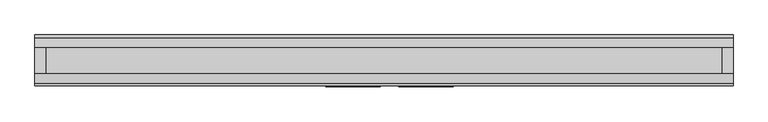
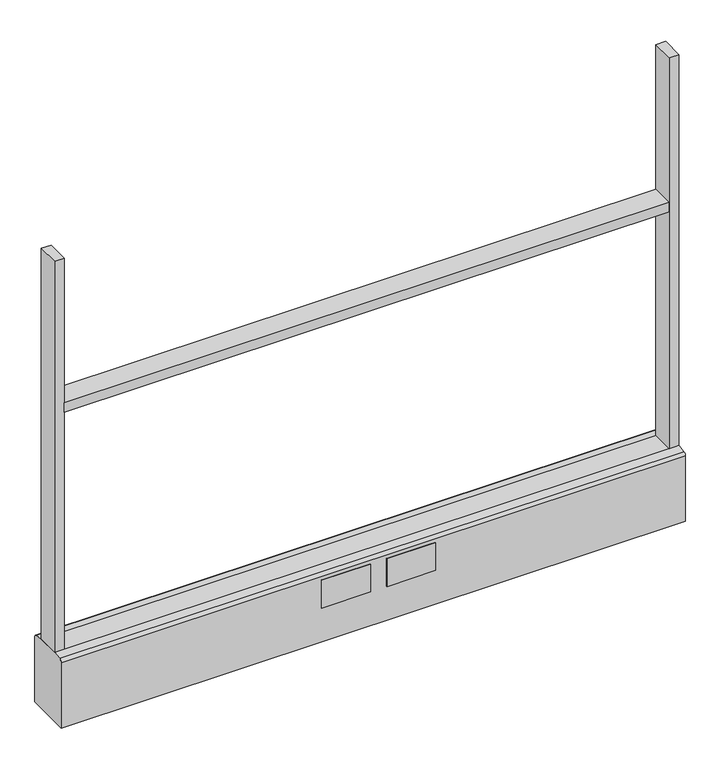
"""IFC4 building model written with IfcOpenShell, lengths in millimetres: furniture geometry."""

from ifc_helpers import new_model, si_unit, point, frame, frame_2d, origin, origin_with_axes, place, context, project, spatial, polyline, circle_curve, trimmed, segment, composite_curve, outline, extrude, source, transform, mapped, element, save


def furniture_85814acf(model_context):
    return source(origin(), model_context, "Body", "SweptSolid", [
        extrude(outline(composite_curve([segment(trimmed(circle_curve(frame_2d((-533.4, 0.0)), 5.55625), [point((-527.84375, 0.0))], [point((-538.95625, 0.0))], False, "CARTESIAN"), True, "CONTINUOUS"), segment(trimmed(circle_curve(frame_2d((-533.4, 0.0)), 5.55625), [point((-538.95625, 0.0))], [point((-527.84375, 0.0))], False, "CARTESIAN"), True, "CONTINUOUS")], self_intersect=False)), frame((0.0, 0.0, 6.3499992), z_axis=(0.0, 0.0, 1.0), x_axis=(1.0, 0.0, 0.0)), (0.0, 0.0, 1.0), 3.1750008),
        extrude(outline(composite_curve([segment(trimmed(circle_curve(frame_2d((533.4, 0.0)), 5.55625), [point((538.95625, 0.0))], [point((527.84375, 0.0))], False, "CARTESIAN"), True, "CONTINUOUS"), segment(trimmed(circle_curve(frame_2d((533.4, 0.0)), 5.55625), [point((527.84375, 0.0))], [point((538.95625, 0.0))], False, "CARTESIAN"), True, "CONTINUOUS")], self_intersect=False)), frame((0.0, 0.0, 6.3499992), z_axis=(0.0, 0.0, 1.0), x_axis=(1.0, 0.0, 0.0)), (0.0, 0.0, 1.0), 3.1750008),
        extrude(outline(composite_curve([segment(trimmed(circle_curve(frame_2d((-533.4, 0.0)), 23.415625), [point((-509.984375, 0.0))], [point((-556.815625, 0.0))], False, "CARTESIAN"), True, "CONTINUOUS"), segment(trimmed(circle_curve(frame_2d((-533.4, 0.0)), 23.415625), [point((-556.815625, 0.0))], [point((-509.984375, 0.0))], False, "CARTESIAN"), True, "CONTINUOUS")], self_intersect=False)), origin_with_axes(), (0.0, 0.0, 1.0), 6.3499992),
        extrude(outline(composite_curve([segment(trimmed(circle_curve(frame_2d((533.4, 0.0)), 23.415625), [point((556.815625, 0.0))], [point((509.984375, 0.0))], False, "CARTESIAN"), True, "CONTINUOUS"), segment(trimmed(circle_curve(frame_2d((533.4, 0.0)), 23.415625), [point((509.984375, 0.0))], [point((556.815625, 0.0))], False, "CARTESIAN"), True, "CONTINUOUS")], self_intersect=False)), origin_with_axes(), (0.0, 0.0, 1.0), 6.3499992),
        extrude(outline(polyline([(590.6515926, -22.225), (-590.6515926, -22.225), (-590.6515926, 22.225), (590.6515926, 22.225), (590.6515926, -22.225)])), frame((0.0, 0.0, 641.35), z_axis=(0.0, 0.0, 1.0), x_axis=(1.0, 0.0, 0.0)), (0.0, 0.0, 1.0), 19.05),
        extrude(outline(polyline([(609.6, 22.225), (609.6, -22.225), (590.6515926, -22.225), (590.6515926, 22.225), (609.6, 22.225)])), frame((0.0, 0.0, 152.4), z_axis=(0.0, 0.0, 1.0), x_axis=(1.0, 0.0, 0.0)), (0.0, 0.0, 1.0), 806.4499516),
        extrude(outline(polyline([(-590.6515926, 22.225), (-590.6515926, -22.225), (-609.6, -22.225), (-609.6, 22.225), (-590.6515926, 22.225)])), frame((0.0, 0.0, 152.4), z_axis=(0.0, 0.0, 1.0), x_axis=(1.0, 0.0, 0.0)), (0.0, 0.0, 1.0), 806.4499516),
        extrude(outline(composite_curve([segment(polyline([(22.2316857, 152.4), (39.4289836, 149.9432432)]), True, "CONTINUOUS"), segment(trimmed(circle_curve(frame_2d((38.605672, 144.1572033)), 5.844322), [point((39.4289836, 149.9432432))], [point((44.4499939, 144.1572033))], False, "CARTESIAN"), True, "CONTINUOUS"), segment(polyline([(44.4499939, 144.1572033), (44.4499939, 9.525), (-44.4499939, 9.525), (-44.4499939, 144.1572033)]), True, "CONTINUOUS"), segment(trimmed(circle_curve(frame_2d((-38.605672, 144.1572033)), 5.844322), [point((-44.4499939, 144.1572033))], [point((-39.4289836, 149.9432432))], False, "CARTESIAN"), True, "CONTINUOUS"), segment(polyline([(-39.4289836, 149.9432432), (-22.2316857, 152.4), (22.2316857, 152.4)]), True, "CONTINUOUS")], self_intersect=False)), frame((-609.6, 0.0, 0.0), z_axis=(1.0, 0.0, 0.0), x_axis=(0.0, 1.0, 0.0)), (0.0, 0.0, 1.0), 1219.2),
        extrude(outline(polyline([(120.65, -46.0374939), (25.4, -46.0374939), (25.4, -44.4499939), (120.65, -44.4499939), (120.65, -46.0374939)])), frame((0.0, 0.0, 80.01), z_axis=(0.0, 0.0, 1.0), x_axis=(1.0, 0.0, 0.0)), (0.0, 0.0, 1.0), 57.15),
        extrude(outline(polyline([(-6.35, -46.0374939), (-101.6, -46.0374939), (-101.6, -44.4499939), (-6.35, -44.4499939), (-6.35, -46.0374939)])), frame((0.0, 0.0, 80.01), z_axis=(0.0, 0.0, 1.0), x_axis=(1.0, 0.0, 0.0)), (0.0, 0.0, 1.0), 57.15),
        extrude(outline(polyline([(120.65, -46.0374939), (25.4, -46.0374939), (25.4, -44.4499939), (120.65, -44.4499939), (120.65, -46.0374939)])), frame((0.0, 0.0, 80.01), z_axis=(0.0, 0.0, 1.0), x_axis=(1.0, 0.0, 0.0)), (0.0, 0.0, 1.0), 57.15),
        extrude(outline(polyline([(-6.35, -46.0374939), (-101.6, -46.0374939), (-101.6, -44.4499939), (-6.35, -44.4499939), (-6.35, -46.0374939)])), frame((0.0, 0.0, 80.01), z_axis=(0.0, 0.0, 1.0), x_axis=(1.0, 0.0, 0.0)), (0.0, 0.0, 1.0), 57.15),
    ])


if __name__ == "__main__":
    model = new_model("IFC4")
    model_context = context("Model", 3, world=origin())
    ifc_project = project(units=[si_unit("LENGTHUNIT", "METRE", prefix="MILLI")], contexts=[model_context])
    site = spatial("IfcSite", under=ifc_project)
    building = spatial("IfcBuilding", under=site)
    placement = place(None, origin())
    furniture_shape = furniture_85814acf(model_context)
    element("IfcFurniture", 1, ObjectType="HermanMiller_Ethospace_E1116_FrameTransactionWorkSurface : 38\"H x 48\"W-H", at=placement, inside=building, context=model_context, shape_type="MappedRepresentation", body=[
        mapped(furniture_shape, transform((0.0, 0.0, 0.0), x_axis=(1.0, 0.0, 0.0), y_axis=(0.0, 1.0, 0.0), z_axis=(0.0, 0.0, 1.0))),
    ])
    save(model, "model.ifc")
